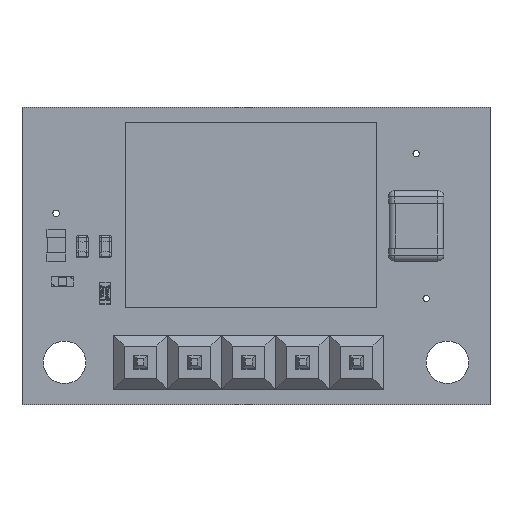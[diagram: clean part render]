
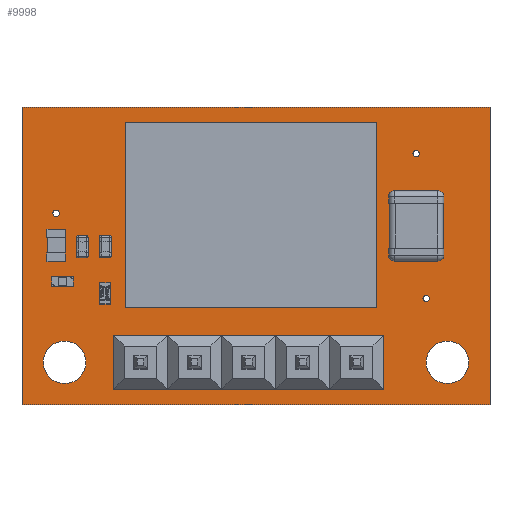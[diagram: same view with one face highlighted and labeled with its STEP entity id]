
A CAD part, top view. The second image highlights one B-rep face of the part: STEP entity #9998.
In plain terms, the highlighted planar face has unit normal (0, 0, 1).
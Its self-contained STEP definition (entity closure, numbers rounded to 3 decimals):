
#560=FACE_BOUND('',#1581,.T.);
#561=FACE_BOUND('',#1582,.T.);
#562=FACE_BOUND('',#1583,.T.);
#563=FACE_BOUND('',#1584,.T.);
#564=FACE_BOUND('',#1585,.T.);
#565=FACE_BOUND('',#1586,.T.);
#566=FACE_BOUND('',#1587,.T.);
#567=FACE_BOUND('',#1588,.T.);
#568=FACE_BOUND('',#1589,.T.);
#569=FACE_BOUND('',#1590,.T.);
#570=FACE_BOUND('',#1591,.T.);
#571=FACE_BOUND('',#1592,.T.);
#572=FACE_BOUND('',#1593,.T.);
#573=FACE_BOUND('',#1594,.T.);
#574=FACE_BOUND('',#1595,.T.);
#623=PLANE('',#10796);
#981=FACE_OUTER_BOUND('',#1580,.T.);
#1580=EDGE_LOOP('',(#6638,#6639,#6640,#6641));
#1581=EDGE_LOOP('',(#6642));
#1582=EDGE_LOOP('',(#6643));
#1583=EDGE_LOOP('',(#6644));
#1584=EDGE_LOOP('',(#6645));
#1585=EDGE_LOOP('',(#6646));
#1586=EDGE_LOOP('',(#6647));
#1587=EDGE_LOOP('',(#6648));
#1588=EDGE_LOOP('',(#6649));
#1589=EDGE_LOOP('',(#6650));
#1590=EDGE_LOOP('',(#6651));
#1591=EDGE_LOOP('',(#6652));
#1592=EDGE_LOOP('',(#6653));
#1593=EDGE_LOOP('',(#6654));
#1594=EDGE_LOOP('',(#6655));
#1595=EDGE_LOOP('',(#6656));
#2236=LINE('',#14381,#3100);
#2239=LINE('',#14387,#3103);
#2242=LINE('',#14393,#3106);
#2245=LINE('',#14397,#3109);
#3100=VECTOR('',#11750,10.);
#3103=VECTOR('',#11755,10.);
#3106=VECTOR('',#11760,10.);
#3109=VECTOR('',#11765,10.);
#3948=CIRCLE('',#10749,0.508);
#3950=CIRCLE('',#10752,0.508);
#3952=CIRCLE('',#10755,0.15);
#3954=CIRCLE('',#10758,0.15);
#3956=CIRCLE('',#10761,0.15);
#3958=CIRCLE('',#10764,0.15);
#3960=CIRCLE('',#10767,0.15);
#3962=CIRCLE('',#10770,0.15);
#3964=CIRCLE('',#10773,0.15);
#3966=CIRCLE('',#10776,0.15);
#3968=CIRCLE('',#10779,0.508);
#3970=CIRCLE('',#10782,0.508);
#3972=CIRCLE('',#10785,0.508);
#3973=CIRCLE('',#10787,1.);
#3975=CIRCLE('',#10790,1.);
#4213=VERTEX_POINT('',#14287);
#4215=VERTEX_POINT('',#14293);
#4217=VERTEX_POINT('',#14299);
#4219=VERTEX_POINT('',#14305);
#4221=VERTEX_POINT('',#14311);
#4223=VERTEX_POINT('',#14317);
#4225=VERTEX_POINT('',#14323);
#4227=VERTEX_POINT('',#14329);
#4229=VERTEX_POINT('',#14335);
#4231=VERTEX_POINT('',#14341);
#4233=VERTEX_POINT('',#14347);
#4235=VERTEX_POINT('',#14353);
#4237=VERTEX_POINT('',#14359);
#4238=VERTEX_POINT('',#14363);
#4240=VERTEX_POINT('',#14369);
#4244=VERTEX_POINT('',#14378);
#4245=VERTEX_POINT('',#14380);
#4247=VERTEX_POINT('',#14386);
#4249=VERTEX_POINT('',#14392);
#5126=EDGE_CURVE('',#4213,#4213,#3948,.T.);
#5129=EDGE_CURVE('',#4215,#4215,#3950,.T.);
#5132=EDGE_CURVE('',#4217,#4217,#3952,.T.);
#5135=EDGE_CURVE('',#4219,#4219,#3954,.T.);
#5138=EDGE_CURVE('',#4221,#4221,#3956,.T.);
#5141=EDGE_CURVE('',#4223,#4223,#3958,.T.);
#5144=EDGE_CURVE('',#4225,#4225,#3960,.T.);
#5147=EDGE_CURVE('',#4227,#4227,#3962,.T.);
#5150=EDGE_CURVE('',#4229,#4229,#3964,.T.);
#5153=EDGE_CURVE('',#4231,#4231,#3966,.T.);
#5156=EDGE_CURVE('',#4233,#4233,#3968,.T.);
#5159=EDGE_CURVE('',#4235,#4235,#3970,.T.);
#5162=EDGE_CURVE('',#4237,#4237,#3972,.T.);
#5163=EDGE_CURVE('',#4238,#4238,#3973,.T.);
#5166=EDGE_CURVE('',#4240,#4240,#3975,.T.);
#5171=EDGE_CURVE('',#4245,#4244,#2236,.T.);
#5174=EDGE_CURVE('',#4247,#4245,#2239,.T.);
#5177=EDGE_CURVE('',#4249,#4247,#2242,.T.);
#5180=EDGE_CURVE('',#4244,#4249,#2245,.T.);
#6638=ORIENTED_EDGE('',*,*,#5180,.T.);
#6639=ORIENTED_EDGE('',*,*,#5177,.T.);
#6640=ORIENTED_EDGE('',*,*,#5174,.T.);
#6641=ORIENTED_EDGE('',*,*,#5171,.T.);
#6642=ORIENTED_EDGE('',*,*,#5126,.T.);
#6643=ORIENTED_EDGE('',*,*,#5129,.T.);
#6644=ORIENTED_EDGE('',*,*,#5132,.T.);
#6645=ORIENTED_EDGE('',*,*,#5135,.T.);
#6646=ORIENTED_EDGE('',*,*,#5138,.T.);
#6647=ORIENTED_EDGE('',*,*,#5141,.T.);
#6648=ORIENTED_EDGE('',*,*,#5144,.T.);
#6649=ORIENTED_EDGE('',*,*,#5147,.T.);
#6650=ORIENTED_EDGE('',*,*,#5150,.T.);
#6651=ORIENTED_EDGE('',*,*,#5153,.T.);
#6652=ORIENTED_EDGE('',*,*,#5156,.T.);
#6653=ORIENTED_EDGE('',*,*,#5159,.T.);
#6654=ORIENTED_EDGE('',*,*,#5162,.T.);
#6655=ORIENTED_EDGE('',*,*,#5166,.T.);
#6656=ORIENTED_EDGE('',*,*,#5163,.T.);
#9998=ADVANCED_FACE('',(#981,#560,#561,#562,#563,#564,#565,#566,#567,#568,
#569,#570,#571,#572,#573,#574),#623,.T.);
#10749=AXIS2_PLACEMENT_3D('',#14289,#11646,#11647);
#10752=AXIS2_PLACEMENT_3D('',#14295,#11653,#11654);
#10755=AXIS2_PLACEMENT_3D('',#14301,#11660,#11661);
#10758=AXIS2_PLACEMENT_3D('',#14307,#11667,#11668);
#10761=AXIS2_PLACEMENT_3D('',#14313,#11674,#11675);
#10764=AXIS2_PLACEMENT_3D('',#14319,#11681,#11682);
#10767=AXIS2_PLACEMENT_3D('',#14325,#11688,#11689);
#10770=AXIS2_PLACEMENT_3D('',#14331,#11695,#11696);
#10773=AXIS2_PLACEMENT_3D('',#14337,#11702,#11703);
#10776=AXIS2_PLACEMENT_3D('',#14343,#11709,#11710);
#10779=AXIS2_PLACEMENT_3D('',#14349,#11716,#11717);
#10782=AXIS2_PLACEMENT_3D('',#14355,#11723,#11724);
#10785=AXIS2_PLACEMENT_3D('',#14361,#11730,#11731);
#10787=AXIS2_PLACEMENT_3D('',#14364,#11734,#11735);
#10790=AXIS2_PLACEMENT_3D('',#14370,#11741,#11742);
#10796=AXIS2_PLACEMENT_3D('',#14398,#11766,#11767);
#11646=DIRECTION('center_axis',(0.,0.,-1.));
#11647=DIRECTION('ref_axis',(1.,0.,0.));
#11653=DIRECTION('center_axis',(0.,0.,-1.));
#11654=DIRECTION('ref_axis',(1.,0.,0.));
#11660=DIRECTION('center_axis',(0.,0.,-1.));
#11661=DIRECTION('ref_axis',(1.,0.,0.));
#11667=DIRECTION('center_axis',(0.,0.,-1.));
#11668=DIRECTION('ref_axis',(1.,0.,0.));
#11674=DIRECTION('center_axis',(0.,0.,-1.));
#11675=DIRECTION('ref_axis',(1.,0.,0.));
#11681=DIRECTION('center_axis',(0.,0.,-1.));
#11682=DIRECTION('ref_axis',(1.,0.,0.));
#11688=DIRECTION('center_axis',(0.,0.,-1.));
#11689=DIRECTION('ref_axis',(1.,0.,0.));
#11695=DIRECTION('center_axis',(0.,0.,-1.));
#11696=DIRECTION('ref_axis',(1.,0.,0.));
#11702=DIRECTION('center_axis',(0.,0.,-1.));
#11703=DIRECTION('ref_axis',(1.,0.,0.));
#11709=DIRECTION('center_axis',(0.,0.,-1.));
#11710=DIRECTION('ref_axis',(1.,0.,0.));
#11716=DIRECTION('center_axis',(0.,0.,-1.));
#11717=DIRECTION('ref_axis',(1.,0.,0.));
#11723=DIRECTION('center_axis',(0.,0.,-1.));
#11724=DIRECTION('ref_axis',(1.,0.,0.));
#11730=DIRECTION('center_axis',(0.,0.,-1.));
#11731=DIRECTION('ref_axis',(1.,0.,0.));
#11734=DIRECTION('center_axis',(0.,0.,-1.));
#11735=DIRECTION('ref_axis',(1.,0.,0.));
#11741=DIRECTION('center_axis',(0.,0.,-1.));
#11742=DIRECTION('ref_axis',(1.,0.,0.));
#11750=DIRECTION('',(-1.,0.,0.));
#11755=DIRECTION('',(0.,1.,0.));
#11760=DIRECTION('',(1.,0.,0.));
#11765=DIRECTION('',(0.,-1.,0.));
#11766=DIRECTION('center_axis',(0.,0.,1.));
#11767=DIRECTION('ref_axis',(1.,0.,0.));
#14287=CARTESIAN_POINT('',(12.712,2.,1.57));
#14289=CARTESIAN_POINT('Origin',(13.22,2.,1.57));
#14293=CARTESIAN_POINT('',(7.632,2.,1.57));
#14295=CARTESIAN_POINT('Origin',(8.14,2.,1.57));
#14299=CARTESIAN_POINT('',(11.85,7.7,1.57));
#14301=CARTESIAN_POINT('Origin',(12.,7.7,1.57));
#14305=CARTESIAN_POINT('',(10.65,7.7,1.57));
#14307=CARTESIAN_POINT('Origin',(10.8,7.7,1.57));
#14311=CARTESIAN_POINT('',(9.35,7.7,1.57));
#14313=CARTESIAN_POINT('Origin',(9.5,7.7,1.57));
#14317=CARTESIAN_POINT('',(7.05,12.3,1.57));
#14319=CARTESIAN_POINT('Origin',(7.2,12.3,1.57));
#14323=CARTESIAN_POINT('',(18.38,11.81,1.57));
#14325=CARTESIAN_POINT('Origin',(18.53,11.81,1.57));
#14329=CARTESIAN_POINT('',(1.45,9.,1.57));
#14331=CARTESIAN_POINT('Origin',(1.6,9.,1.57));
#14335=CARTESIAN_POINT('',(8.05,7.7,1.57));
#14337=CARTESIAN_POINT('Origin',(8.2,7.7,1.57));
#14341=CARTESIAN_POINT('',(18.85,5.,1.57));
#14343=CARTESIAN_POINT('Origin',(19.,5.,1.57));
#14347=CARTESIAN_POINT('',(5.092,2.,1.57));
#14349=CARTESIAN_POINT('Origin',(5.6,2.,1.57));
#14353=CARTESIAN_POINT('',(10.172,2.,1.57));
#14355=CARTESIAN_POINT('Origin',(10.68,2.,1.57));
#14359=CARTESIAN_POINT('',(15.252,2.,1.57));
#14361=CARTESIAN_POINT('Origin',(15.76,2.,1.57));
#14363=CARTESIAN_POINT('',(1.,2.,1.57));
#14364=CARTESIAN_POINT('Origin',(2.,2.,1.57));
#14369=CARTESIAN_POINT('',(19.,2.,1.57));
#14370=CARTESIAN_POINT('Origin',(20.,2.,1.57));
#14378=CARTESIAN_POINT('',(0.,14.,1.57));
#14380=CARTESIAN_POINT('',(22.,14.,1.57));
#14381=CARTESIAN_POINT('',(22.,14.,1.57));
#14386=CARTESIAN_POINT('',(22.,0.,1.57));
#14387=CARTESIAN_POINT('',(22.,0.,1.57));
#14392=CARTESIAN_POINT('',(0.,0.,1.57));
#14393=CARTESIAN_POINT('',(0.,0.,1.57));
#14397=CARTESIAN_POINT('',(0.,14.,1.57));
#14398=CARTESIAN_POINT('Origin',(11.,7.,1.57));
